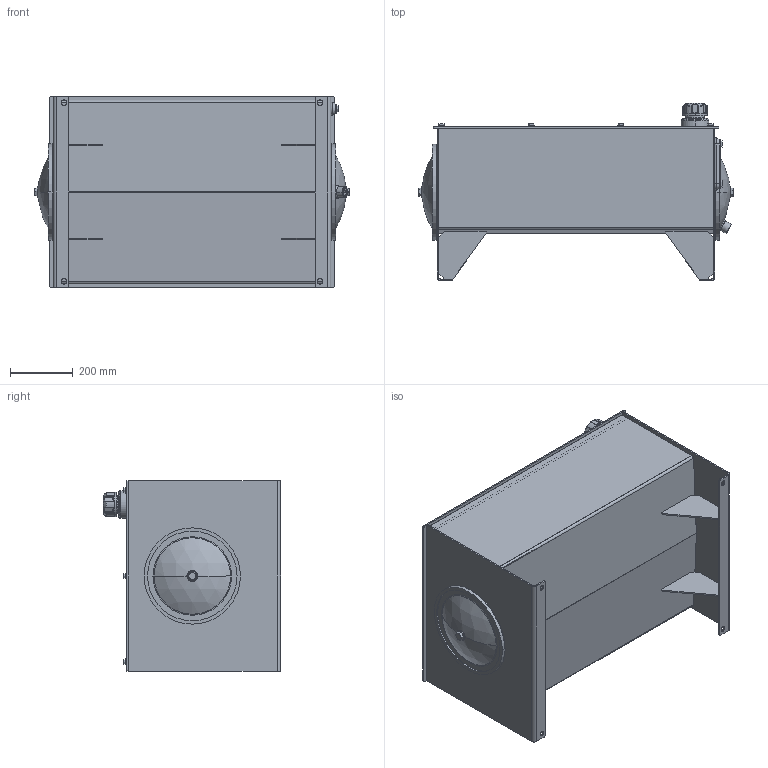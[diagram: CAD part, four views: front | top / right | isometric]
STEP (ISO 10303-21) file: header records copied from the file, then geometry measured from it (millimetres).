
FILE_DESCRIPTION (( 'STEP AP203' ), '1' );
FILE_NAME ('RJIC030-RT.STEP', '2015-01-08T15:47:00', ( '' ), ( '' ), 'SwSTEP 2.0', 'SolidWorks 2014', '' );
FILE_SCHEMA (( 'CONFIG_CONTROL_DESIGN' ));
Length unit declared in the file: inch
Products named in the file (1): RJIC030-RT
Bounding box: 1010.19 x 567.05 x 609.6 mm (x, y, z)
Volume: 11465307.6 mm3; surface area: 5946419.6 mm2
Topology: 48 solids, 48 shells, 1071 faces, 2449 edges, 1497 vertices
Faces by surface type: plane 396, cylinder 368, torus 120, cone 104, bspline 51, sphere 32
Entity records: 33242 total; most frequent: CARTESIAN_POINT 8472, DIRECTION 5484, ORIENTED_EDGE 4874, EDGE_CURVE 2437, AXIS2_PLACEMENT_3D 2179, VERTEX_POINT 1497, EDGE_LOOP 1240, CIRCLE 1158
